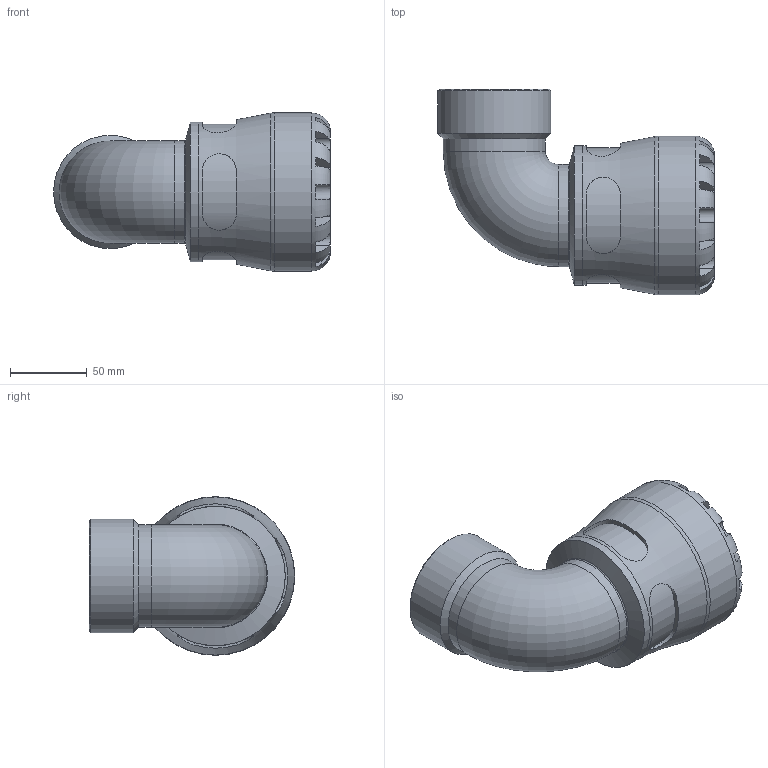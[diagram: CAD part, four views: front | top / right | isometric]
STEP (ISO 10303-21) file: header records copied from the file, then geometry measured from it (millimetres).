
FILE_DESCRIPTION(/* description */ ('PLASSON 90° ELBOW WITH FEMALE INTEGRAL BRASS 63X2" SERIES 1'),/* implementation_level */ '2;1');
FILE_NAME(/* name */ 'C:\Dropbox\KIMPROJECTS-Inventor\99-16-3568-Processing\1076\107600063020_197600063020.ipt.step',/* time_stamp */ '2017-05-18T12:03:50+03:00',/* author */ ('KIM'),/* organization */ (''),/* preprocessor_version */ 'ST-DEVELOPER v15.6',/* originating_system */ 'Autodesk Inventor 2015',/* authorisation */ '');
FILE_SCHEMA (('AUTOMOTIVE_DESIGN { 1 0 10303 214 3 1 1 }'));
Length unit declared in the file: millimetre
Products named in the file (1): 107600063020_197600063020
Bounding box: 179.83 x 133.5 x 103 mm (x, y, z)
Volume: 558391.9 mm3; surface area: 103010.5 mm2
Topology: 1 solids, 1 shells, 108 faces, 265 edges, 164 vertices
Faces by surface type: plane 60, cylinder 37, torus 6, cone 5
Full cylindrical faces by diameter (mm): 50.99 x2, 56.656 x1, 63 x1, 66.288 x2, 73.653 x1, 90.64 x1, 103 x1
Entity records: 3980 total; most frequent: CARTESIAN_POINT 1455, DIRECTION 488, ORIENTED_EDGE 478, EDGE_CURVE 239, AXIS2_PLACEMENT_3D 204, VERTEX_POINT 159, EDGE_LOOP 136, STYLED_ITEM 109
